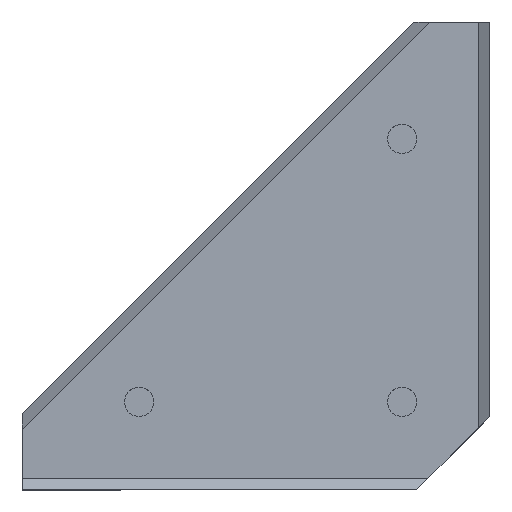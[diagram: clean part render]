
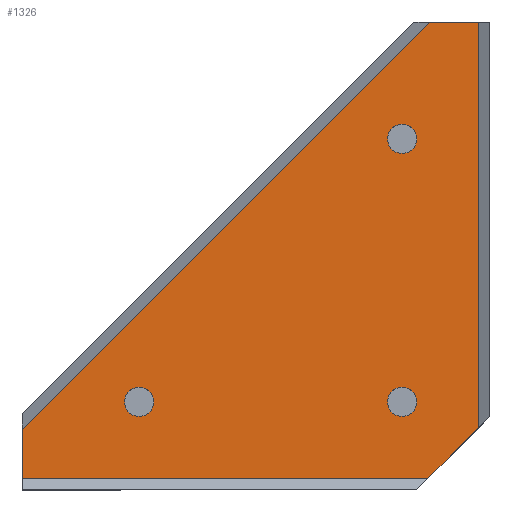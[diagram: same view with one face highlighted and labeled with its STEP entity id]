
A CAD part, top view. The second image highlights one B-rep face of the part: STEP entity #1326.
In plain terms, the highlighted planar face has unit normal (0, 0, 1).
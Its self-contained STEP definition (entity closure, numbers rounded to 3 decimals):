
#4 = ORIENTED_EDGE ( 'NONE', *, *, #1083, .F. ) ;
#12 = VERTEX_POINT ( 'NONE', #158 ) ;
#15 = VERTEX_POINT ( 'NONE', #177 ) ;
#67 = LINE ( 'NONE', #68, #69 ) ;
#68 = CARTESIAN_POINT ( 'NONE',  ( 0., 1.9, 26.2 ) ) ;
#69 = VECTOR ( 'NONE', #70, 1000. ) ;
#70 = DIRECTION ( 'NONE',  ( 1., 0., 0. ) ) ;
#119 = VERTEX_POINT ( 'NONE', #534 ) ;
#125 = CARTESIAN_POINT ( 'NONE',  ( 22.5, 15., 26.2 ) ) ;
#158 = CARTESIAN_POINT ( 'NONE',  ( 62.5, 60., 26.2 ) ) ;
#177 = CARTESIAN_POINT ( 'NONE',  ( 78.1, 10.6, 26.2 ) ) ;
#207 = CIRCLE ( 'NONE', #208, 2.5 ) ;
#208 = AXIS2_PLACEMENT_3D ( 'NONE', #209, #210, #211 ) ;
#209 = CARTESIAN_POINT ( 'NONE',  ( 20., 15., 26.2 ) ) ;
#210 = DIRECTION ( 'NONE',  ( 0., 0., 1. ) ) ;
#211 = DIRECTION ( 'NONE',  ( 1., 0., 0. ) ) ;
#292 = CARTESIAN_POINT ( 'NONE',  ( 62.5, 15., 26.2 ) ) ;
#320 = LINE ( 'NONE', #321, #322 ) ;
#321 = CARTESIAN_POINT ( 'NONE',  ( 67.5, 0., 26.2 ) ) ;
#322 = VECTOR ( 'NONE', #323, 1000. ) ;
#323 = DIRECTION ( 'NONE',  ( 0.707, 0.707, 0. ) ) ;
#341 = VERTEX_POINT ( 'NONE', #704 ) ;
#374 = CARTESIAN_POINT ( 'NONE',  ( 0., 10.313, 26.2 ) ) ;
#383 = CARTESIAN_POINT ( 'NONE',  ( 67.5, 15., 26.2 ) ) ;
#384 = CARTESIAN_POINT ( 'NONE',  ( 67.5, 60., 26.2 ) ) ;
#416 = ORIENTED_EDGE ( 'NONE', *, *, #488, .T. ) ;
#456 = CIRCLE ( 'NONE', #457, 2.5 ) ;
#457 = AXIS2_PLACEMENT_3D ( 'NONE', #458, #459, #460 ) ;
#458 = CARTESIAN_POINT ( 'NONE',  ( 65., 60., 26.2 ) ) ;
#459 = DIRECTION ( 'NONE',  ( 0., 0., 1. ) ) ;
#460 = DIRECTION ( 'NONE',  ( 1., 0., 0. ) ) ;
#488 = EDGE_CURVE ( 'NONE', #119, #1005, #755, .T. ) ;
#515 = FACE_BOUND ( 'NONE', #1303, .T. ) ;
#516 = FACE_BOUND ( 'NONE', #1115, .T. ) ;
#517 = FACE_BOUND ( 'NONE', #1178, .T. ) ;
#518 = FACE_OUTER_BOUND ( 'NONE', #1348, .T. ) ;
#519 = PLANE ( 'NONE',  #520 ) ;
#520 = AXIS2_PLACEMENT_3D ( 'NONE', #521, #522, #523 ) ;
#521 = CARTESIAN_POINT ( 'NONE',  ( 0., 0., 26.2 ) ) ;
#522 = DIRECTION ( 'NONE',  ( 0., 0., 1. ) ) ;
#523 = DIRECTION ( 'NONE',  ( 1., 0., 0. ) ) ;
#534 = CARTESIAN_POINT ( 'NONE',  ( 78.1, 80., 26.2 ) ) ;
#554 = CIRCLE ( 'NONE', #555, 2.5 ) ;
#555 = AXIS2_PLACEMENT_3D ( 'NONE', #556, #557, #558 ) ;
#556 = CARTESIAN_POINT ( 'NONE',  ( 65., 60., 26.2 ) ) ;
#557 = DIRECTION ( 'NONE',  ( 0., 0., 1. ) ) ;
#558 = DIRECTION ( 'NONE',  ( 1., 0., 0. ) ) ;
#605 = CIRCLE ( 'NONE', #606, 2.5 ) ;
#606 = AXIS2_PLACEMENT_3D ( 'NONE', #607, #608, #609 ) ;
#607 = CARTESIAN_POINT ( 'NONE',  ( 65., 15., 26.2 ) ) ;
#608 = DIRECTION ( 'NONE',  ( 0., 0., 1. ) ) ;
#609 = DIRECTION ( 'NONE',  ( 1., 0., 0. ) ) ;
#631 = CARTESIAN_POINT ( 'NONE',  ( 0., 1.9, 26.2 ) ) ;
#704 = CARTESIAN_POINT ( 'NONE',  ( 17.5, 15., 26.2 ) ) ;
#751 = LINE ( 'NONE', #752, #753 ) ;
#752 = CARTESIAN_POINT ( 'NONE',  ( 0., 13., 26.2 ) ) ;
#753 = VECTOR ( 'NONE', #754, 1000. ) ;
#754 = DIRECTION ( 'NONE',  ( 0., -1., 0. ) ) ;
#755 = LINE ( 'NONE', #756, #757 ) ;
#756 = CARTESIAN_POINT ( 'NONE',  ( 80., 80., 26.2 ) ) ;
#757 = VECTOR ( 'NONE', #758, 1000. ) ;
#758 = DIRECTION ( 'NONE',  ( -1., 0., 0. ) ) ;
#806 = LINE ( 'NONE', #807, #808 ) ;
#807 = CARTESIAN_POINT ( 'NONE',  ( 141.654, 151.967, 26.2 ) ) ;
#808 = VECTOR ( 'NONE', #809, 1000. ) ;
#809 = DIRECTION ( 'NONE',  ( -0.707, -0.707, 0. ) ) ;
#810 = EDGE_CURVE ( 'NONE', #1054, #1170, #868, .T. ) ;
#829 = CIRCLE ( 'NONE', #830, 2.5 ) ;
#830 = AXIS2_PLACEMENT_3D ( 'NONE', #831, #832, #833 ) ;
#831 = CARTESIAN_POINT ( 'NONE',  ( 20., 15., 26.2 ) ) ;
#832 = DIRECTION ( 'NONE',  ( 0., 0., 1. ) ) ;
#833 = DIRECTION ( 'NONE',  ( 1., 0., 0. ) ) ;
#868 = CIRCLE ( 'NONE', #869, 2.5 ) ;
#869 = AXIS2_PLACEMENT_3D ( 'NONE', #870, #871, #872 ) ;
#870 = CARTESIAN_POINT ( 'NONE',  ( 65., 15., 26.2 ) ) ;
#871 = DIRECTION ( 'NONE',  ( 0., 0., 1. ) ) ;
#872 = DIRECTION ( 'NONE',  ( 1., 0., 0. ) ) ;
#873 = CARTESIAN_POINT ( 'NONE',  ( 69.4, 1.9, 26.2 ) ) ;
#915 = LINE ( 'NONE', #916, #917 ) ;
#916 = CARTESIAN_POINT ( 'NONE',  ( 78.1, 8.902, 26.2 ) ) ;
#917 = VECTOR ( 'NONE', #920, 1000. ) ;
#919 = EDGE_CURVE ( 'NONE', #15, #119, #915, .T. ) ;
#920 = DIRECTION ( 'NONE',  ( 0., 1., 0. ) ) ;
#944 = CARTESIAN_POINT ( 'NONE',  ( 69.687, 80., 26.2 ) ) ;
#1005 = VERTEX_POINT ( 'NONE', #944 ) ;
#1039 = ORIENTED_EDGE ( 'NONE', *, *, #1304, .T. ) ;
#1054 = VERTEX_POINT ( 'NONE', #383 ) ;
#1055 = VERTEX_POINT ( 'NONE', #384 ) ;
#1058 = ORIENTED_EDGE ( 'NONE', *, *, #810, .F. ) ;
#1070 = ORIENTED_EDGE ( 'NONE', *, *, #919, .T. ) ;
#1073 = ORIENTED_EDGE ( 'NONE', *, *, #1258, .F. ) ;
#1077 = EDGE_CURVE ( 'NONE', #12, #1055, #554, .T. ) ;
#1083 = EDGE_CURVE ( 'NONE', #1170, #1054, #605, .T. ) ;
#1104 = EDGE_CURVE ( 'NONE', #1335, #1273, #67, .T. ) ;
#1115 = EDGE_LOOP ( 'NONE', ( #1073, #1205 ) ) ;
#1128 = VERTEX_POINT ( 'NONE', #125 ) ;
#1138 = ORIENTED_EDGE ( 'NONE', *, *, #1077, .F. ) ;
#1144 = ORIENTED_EDGE ( 'NONE', *, *, #1104, .T. ) ;
#1149 = EDGE_CURVE ( 'NONE', #341, #1128, #207, .T. ) ;
#1170 = VERTEX_POINT ( 'NONE', #292 ) ;
#1178 = EDGE_LOOP ( 'NONE', ( #1058, #4 ) ) ;
#1192 = EDGE_CURVE ( 'NONE', #1055, #12, #456, .T. ) ;
#1201 = ORIENTED_EDGE ( 'NONE', *, *, #1242, .T. ) ;
#1205 = ORIENTED_EDGE ( 'NONE', *, *, #1149, .F. ) ;
#1228 = ORIENTED_EDGE ( 'NONE', *, *, #1192, .F. ) ;
#1242 = EDGE_CURVE ( 'NONE', #1312, #1335, #751, .T. ) ;
#1254 = EDGE_CURVE ( 'NONE', #1005, #1312, #806, .T. ) ;
#1258 = EDGE_CURVE ( 'NONE', #1128, #341, #829, .T. ) ;
#1273 = VERTEX_POINT ( 'NONE', #873 ) ;
#1292 = ORIENTED_EDGE ( 'NONE', *, *, #1254, .T. ) ;
#1303 = EDGE_LOOP ( 'NONE', ( #1228, #1138 ) ) ;
#1304 = EDGE_CURVE ( 'NONE', #1273, #15, #320, .T. ) ;
#1312 = VERTEX_POINT ( 'NONE', #374 ) ;
#1326 = ADVANCED_FACE ( 'NONE', ( #515, #516, #517, #518 ), #519, .T. ) ;
#1335 = VERTEX_POINT ( 'NONE', #631 ) ;
#1348 = EDGE_LOOP ( 'NONE', ( #1292, #1201, #1144, #1039, #1070, #416 ) ) ;
